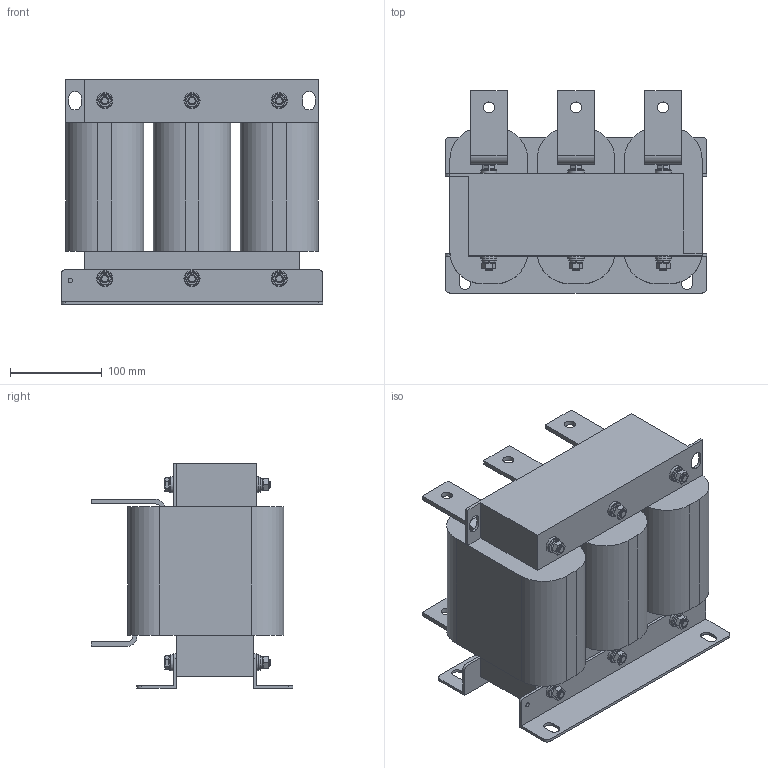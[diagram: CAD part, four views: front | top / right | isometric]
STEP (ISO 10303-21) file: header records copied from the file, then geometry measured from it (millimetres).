
FILE_DESCRIPTION(('STEP AP203'), '1');
FILE_NAME('栖闉罻 _ IMF-250_480-4', '', ('UNSPECIFIED'), ('UNSPECIFIED'), 'ASCON STEP Converter 1.6', 'ASCON Math Kernel', '');
FILE_SCHEMA(('CONFIG_CONTROL_DESIGN'));
Length unit declared in the file: millimetre
Products named in the file (12): IMF-250_480-4
Assembly tree (55 placements, depth 2):
  IMF-250_480-4
    IMF-250_480-4
    IMF-250_480-4  x2
    IMF-250_480-4  x3
    IMF-250_480-4  x3
    IMF-250_480-4  x3
    IMF-250_480-4
    IMF-250_480-4  x12
    IMF-250_480-4  x12
    IMF-250_480-4  x6
    IMF-250_480-4  x6
    IMF-250_480-4  x6
Bounding box: 285 x 220 x 245 mm (x, y, z)
Volume: 7746270.3 mm3; surface area: 593975.3 mm2
Topology: 55 solids, 55 shells, 558 faces, 1164 edges, 722 vertices
Faces by surface type: plane 410, cylinder 124, cone 18, torus 6
Full cylindrical faces by diameter (mm): 5 x2, 8 x48, 12 x6, 16 x12, 17.6 x12
Entity records: 5968 total; most frequent: CARTESIAN_POINT 983, DIRECTION 776, ORIENTED_EDGE 610, EDGE_CURVE 305, AXIS2_PLACEMENT_3D 276, LINE 224, VECTOR 224, VERTEX_POINT 209
